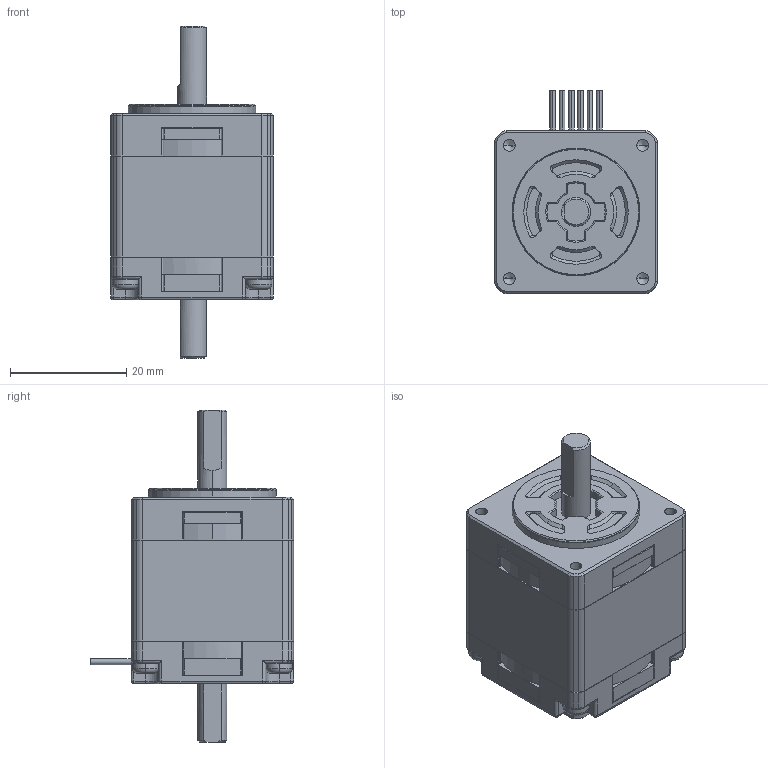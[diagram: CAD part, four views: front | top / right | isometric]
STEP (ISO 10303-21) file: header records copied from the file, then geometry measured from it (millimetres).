
FILE_DESCRIPTION (( 'STEP AP203' ), '1' );
FILE_NAME ('SH2281-5131.STEP', '2016-02-15T00:04:27', ( '' ), ( '' ), 'SwSTEP 2.0', 'SolidWorks 2016', '' );
FILE_SCHEMA (( 'CONFIG_CONTROL_DESIGN' ));
Length unit declared in the file: millimetre
Products named in the file (1): SH2281-5131
Bounding box: 28 x 35 x 57.2 mm (x, y, z)
Volume: 25426.4 mm3; surface area: 8364.6 mm2
Topology: 1 solids, 1 shells, 646 faces, 1719 edges, 1030 vertices
Faces by surface type: cylinder 250, plane 247, cone 79, torus 38, sphere 16, bspline 16
Entity records: 20340 total; most frequent: CARTESIAN_POINT 4096, DIRECTION 3529, ORIENTED_EDGE 3390, EDGE_CURVE 1695, AXIS2_PLACEMENT_3D 1315, VERTEX_POINT 1030, VECTOR 899, LINE 899
